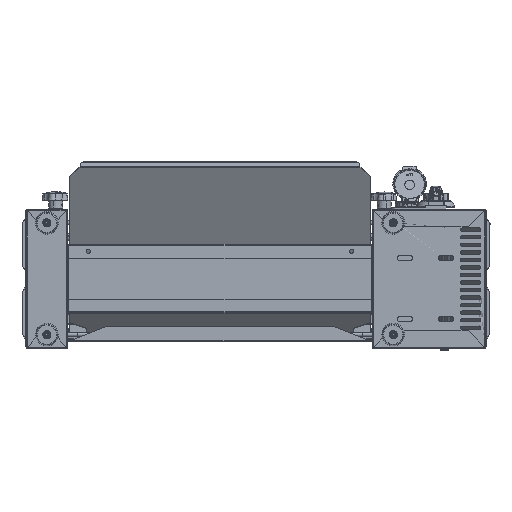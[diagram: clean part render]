
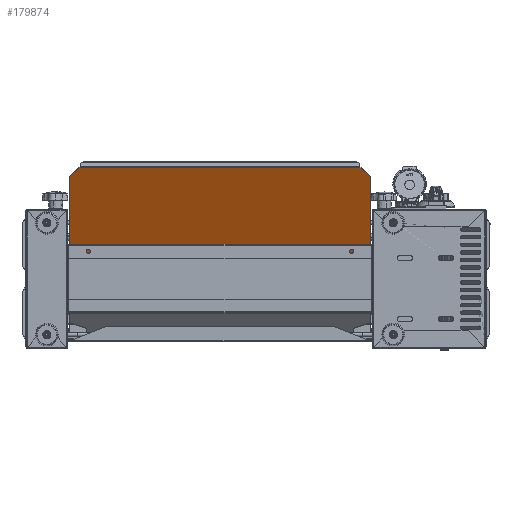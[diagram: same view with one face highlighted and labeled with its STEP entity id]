
A CAD part, front view. The second image highlights one B-rep face of the part: STEP entity #179874.
In plain terms, the highlighted planar face has unit normal (0, -0.874, -0.485).
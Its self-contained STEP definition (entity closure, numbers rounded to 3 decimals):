
#1266 = VERTEX_POINT ( 'NONE', #53616 ) ;
#12763 = EDGE_CURVE ( 'NONE', #196603, #170558, #173145, .T. ) ;
#13497 = CARTESIAN_POINT ( 'NONE',  ( 2.5, -287.285, 148.732 ) ) ;
#15142 = DIRECTION ( 'NONE',  ( -1., 0., 0. ) ) ;
#22545 = DIRECTION ( 'NONE',  ( 0., 0.874, 0.485 ) ) ;
#26391 = EDGE_CURVE ( 'NONE', #60590, #1266, #124762, .T. ) ;
#31330 = DIRECTION ( 'NONE',  ( -1., 0., 0. ) ) ;
#36422 = VECTOR ( 'NONE', #162744, 1000. ) ;
#37600 = VERTEX_POINT ( 'NONE', #113284 ) ;
#38231 = DIRECTION ( 'NONE',  ( -0.707, -0.343, 0.618 ) ) ;
#43867 = EDGE_CURVE ( 'NONE', #37600, #173470, #243887, .T. ) ;
#48799 = ORIENTED_EDGE ( 'NONE', *, *, #114508, .T. ) ;
#52711 = EDGE_CURVE ( 'NONE', #37600, #222162, #99243, .T. ) ;
#53616 = CARTESIAN_POINT ( 'NONE',  ( 18.4, -295., 162.635 ) ) ;
#60590 = VERTEX_POINT ( 'NONE', #159877 ) ;
#67652 = LINE ( 'NONE', #72650, #159273 ) ;
#69802 = LINE ( 'NONE', #225017, #36422 ) ;
#72650 = CARTESIAN_POINT ( 'NONE',  ( 441.4, -178.743, -46.873 ) ) ;
#74475 = CARTESIAN_POINT ( 'NONE',  ( 426.6, -295., 162.635 ) ) ;
#74565 = VECTOR ( 'NONE', #38231, 1000. ) ;
#75884 = CARTESIAN_POINT ( 'NONE',  ( 441.4, -287.285, 148.732 ) ) ;
#76275 = ORIENTED_EDGE ( 'NONE', *, *, #43867, .F. ) ;
#77964 = VECTOR ( 'NONE', #204834, 1000. ) ;
#82454 = VECTOR ( 'NONE', #15142, 1000. ) ;
#86101 = ORIENTED_EDGE ( 'NONE', *, *, #26391, .F. ) ;
#87311 = VERTEX_POINT ( 'NONE', #214762 ) ;
#97669 = CARTESIAN_POINT ( 'NONE',  ( 2.5, -178.696, -46.958 ) ) ;
#99243 = LINE ( 'NONE', #234169, #74565 ) ;
#99256 = DIRECTION ( 'NONE',  ( 1., 0., 0. ) ) ;
#100241 = CARTESIAN_POINT ( 'NONE',  ( 441.4, -178.743, -46.873 ) ) ;
#104801 = ORIENTED_EDGE ( 'NONE', *, *, #12763, .T. ) ;
#113284 = CARTESIAN_POINT ( 'NONE',  ( 442.5, -287.285, 148.732 ) ) ;
#114508 = EDGE_CURVE ( 'NONE', #170558, #173470, #67652, .T. ) ;
#124762 = LINE ( 'NONE', #145163, #77964 ) ;
#126997 = DIRECTION ( 'NONE',  ( 1., 0., 0. ) ) ;
#131289 = EDGE_CURVE ( 'NONE', #1266, #222162, #146144, .T. ) ;
#145163 = CARTESIAN_POINT ( 'NONE',  ( 2.5, -287.285, 148.732 ) ) ;
#146144 = LINE ( 'NONE', #223717, #199278 ) ;
#152778 = ORIENTED_EDGE ( 'NONE', *, *, #131289, .F. ) ;
#156624 = EDGE_CURVE ( 'NONE', #87311, #196603, #69802, .T. ) ;
#159273 = VECTOR ( 'NONE', #203782, 1000. ) ;
#159877 = CARTESIAN_POINT ( 'NONE',  ( 2.5, -287.285, 148.732 ) ) ;
#162744 = DIRECTION ( 'NONE',  ( 0., 0.485, -0.874 ) ) ;
#167229 = ORIENTED_EDGE ( 'NONE', *, *, #52711, .T. ) ;
#169204 = CARTESIAN_POINT ( 'NONE',  ( 2.5, -287.285, 148.732 ) ) ;
#170558 = VERTEX_POINT ( 'NONE', #100241 ) ;
#173145 = LINE ( 'NONE', #192227, #176798 ) ;
#173470 = VERTEX_POINT ( 'NONE', #75884 ) ;
#173769 = VECTOR ( 'NONE', #31330, 1000. ) ;
#175331 = FACE_OUTER_BOUND ( 'NONE', #221719, .T. ) ;
#176798 = VECTOR ( 'NONE', #99256, 1000. ) ;
#179874 = ADVANCED_FACE ( 'NONE', ( #175331 ), #251686, .F. ) ;
#192227 = CARTESIAN_POINT ( 'NONE',  ( 2.5, -178.743, -46.873 ) ) ;
#192443 = ORIENTED_EDGE ( 'NONE', *, *, #156624, .T. ) ;
#196603 = VERTEX_POINT ( 'NONE', #210069 ) ;
#199278 = VECTOR ( 'NONE', #126997, 1000. ) ;
#203782 = DIRECTION ( 'NONE',  ( 0., -0.485, 0.874 ) ) ;
#204834 = DIRECTION ( 'NONE',  ( 0.707, -0.343, 0.618 ) ) ;
#207395 = LINE ( 'NONE', #169204, #82454 ) ;
#209703 = EDGE_CURVE ( 'NONE', #87311, #60590, #207395, .T. ) ;
#210069 = CARTESIAN_POINT ( 'NONE',  ( 3.6, -178.743, -46.873 ) ) ;
#214762 = CARTESIAN_POINT ( 'NONE',  ( 3.6, -287.285, 148.732 ) ) ;
#220895 = AXIS2_PLACEMENT_3D ( 'NONE', #97669, #22545, #233844 ) ;
#221719 = EDGE_LOOP ( 'NONE', ( #223149, #192443, #104801, #48799, #76275, #167229, #152778, #86101 ) ) ;
#222162 = VERTEX_POINT ( 'NONE', #74475 ) ;
#223149 = ORIENTED_EDGE ( 'NONE', *, *, #209703, .F. ) ;
#223717 = CARTESIAN_POINT ( 'NONE',  ( 2.5, -295., 162.635 ) ) ;
#225017 = CARTESIAN_POINT ( 'NONE',  ( 3.6, -287.285, 148.732 ) ) ;
#233844 = DIRECTION ( 'NONE',  ( 1., 0., 0. ) ) ;
#234169 = CARTESIAN_POINT ( 'NONE',  ( 334.4, -339.736, 243.255 ) ) ;
#243887 = LINE ( 'NONE', #13497, #173769 ) ;
#251686 = PLANE ( 'NONE',  #220895 ) ;
